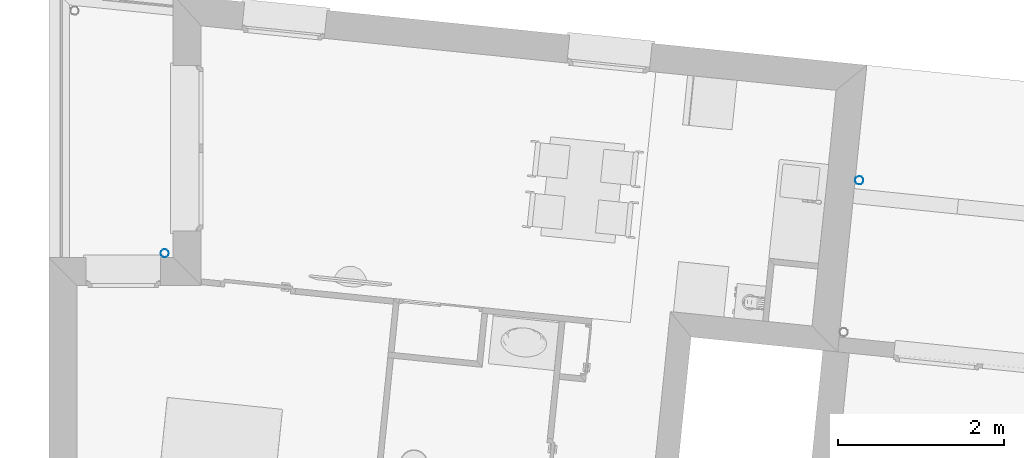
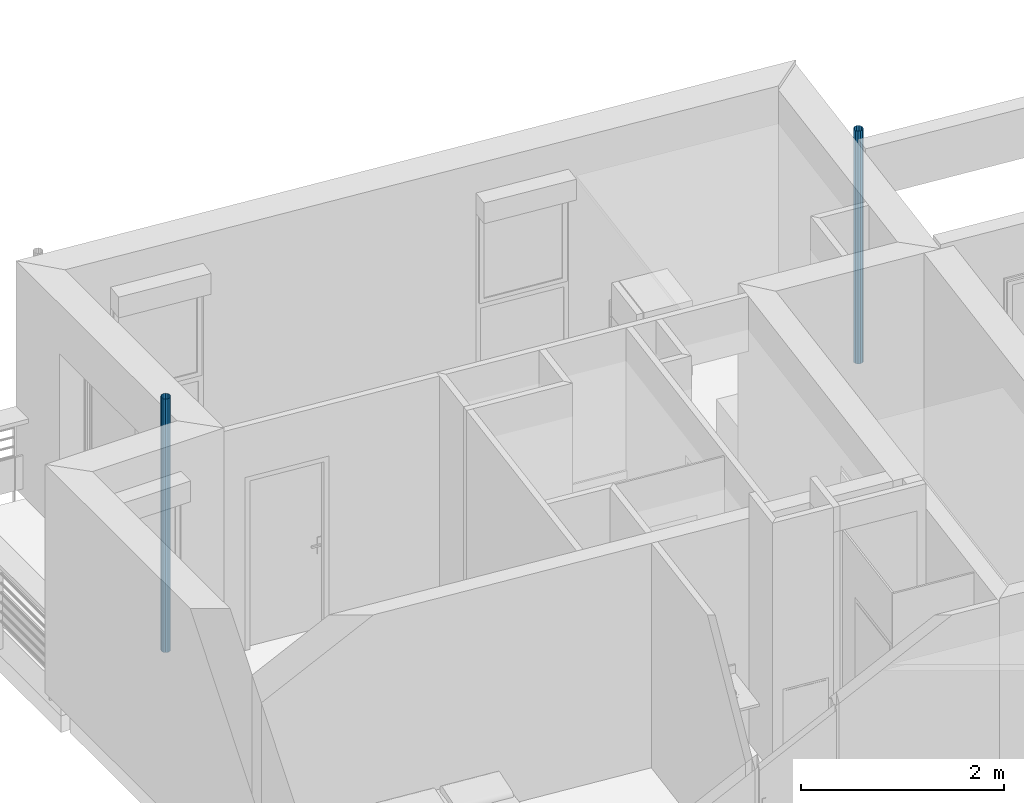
# One storey, part 96 of 171: 2 discrete accessories.
"""IFC2X3 building model written with IfcOpenShell, lengths in millimetres."""

from ifc_helpers import new_model, entity, si_unit, converted_unit, derived_unit, money_unit, direction, frame, origin_with_axes, place, context, subcontext, project, spatial, open_shell, surface_model, source, transform, mapped, type_object, element, save


model = new_model("IFC2X3")

# Units and contexts
model_context = context("Model", 3, precision=0.01, world=origin_with_axes(), true_north=direction((0.0, 1.0)))
body_context = subcontext(model_context, "Body", "Model", "MODEL_VIEW")
ifc_project = project(units=[si_unit("LENGTHUNIT", "METRE", prefix="MILLI"), si_unit("AREAUNIT", "SQUARE_METRE"), si_unit("VOLUMEUNIT", "CUBIC_METRE"), converted_unit("PLANEANGLEUNIT", "DEGREE", entity("IfcPlaneAngleMeasure", 0.0174532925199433), si_unit("PLANEANGLEUNIT", "RADIAN"), dimensions=[0, 0, 0, 0, 0, 0, 0]), money_unit("USD"), converted_unit("TIMEUNIT", "Year", entity("IfcTimeMeasure", 31557600.0), si_unit("TIMEUNIT", "SECOND"), dimensions=[0, 0, 1, 0, 0, 0, 0]), si_unit("MASSUNIT", "GRAM", prefix="KILO"), si_unit("THERMODYNAMICTEMPERATUREUNIT", "DEGREE_CELSIUS"), si_unit("LUMINOUSINTENSITYUNIT", "LUMEN"), si_unit("ENERGYUNIT", "JOULE", prefix="MEGA"), derived_unit("THERMALCONDUCTANCEUNIT", [(si_unit("POWERUNIT", "WATT"), 1), (si_unit("LENGTHUNIT", "METRE"), -1), (si_unit("THERMODYNAMICTEMPERATUREUNIT", "KELVIN"), -1)]), derived_unit("SPECIFICHEATCAPACITYUNIT", [(si_unit("ENERGYUNIT", "JOULE"), 1), (si_unit("MASSUNIT", "GRAM", prefix="KILO"), -1), (si_unit("THERMODYNAMICTEMPERATUREUNIT", "KELVIN"), -1)]), derived_unit("MASSDENSITYUNIT", [(si_unit("MASSUNIT", "GRAM", prefix="KILO"), 1), (si_unit("VOLUMEUNIT", "CUBIC_METRE"), -1)])], contexts=[model_context])

# Site, building, storey
site_placement = place(None, origin_with_axes())
site = spatial("IfcSite", under=ifc_project, at=site_placement, Name="Site", CompositionType="ELEMENT")
building_placement = place(site_placement, origin_with_axes())
building = spatial("IfcBuilding", under=site, at=building_placement, Name="Bâtiment", CompositionType="ELEMENT")
storey_placement = place(building_placement, frame((0.0, 0.0, 3000.0), z_axis=(0.0, 0.0, 1.0), x_axis=(1.0, 0.0, 0.0)))
storey = spatial("IfcBuildingStorey", under=building, at=storey_placement, Name="rdc", CompositionType="ELEMENT", Elevation=3000.0)

# Discrete accessories
discrete_accessory_type = type_object("IfcDiscreteAccessoryType", Name="Tuyau descente 27")
shared_shape_1 = source(origin_with_axes(), body_context, "Body", "SurfaceModel", [
    surface_model("IfcShellBasedSurfaceModel", [(-50.0, 0.0, 3050.0), (-50.0, 0.0, 0.0), (-43.30127018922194, -25.0, 0.0), (-43.30127018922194, -25.0, 3050.0), (-43.30127018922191, 25.00000000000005, 3050.0), (-43.30127018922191, 25.00000000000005, 0.0), (-25.00000000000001, -43.30127018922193, 0.0), (-25.00000000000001, -43.30127018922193, 3050.0), (-24.99999999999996, 43.30127018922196, 3050.0), (-24.99999999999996, 43.30127018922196, 0.0), (0.0, -50.0, 0.0), (0.0, -50.0, 3050.0), (0.0, 50.0, 3050.0), (0.0, 50.0, 0.0), (24.99999999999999, -43.30127018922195, 0.0), (24.99999999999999, -43.30127018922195, 3050.0), (25.00000000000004, 43.30127018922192, 3050.0), (25.00000000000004, 43.30127018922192, 0.0), (43.30127018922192, -25.00000000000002, 0.0), (43.30127018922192, -25.00000000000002, 3050.0), (43.30127018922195, 24.99999999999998, 3050.0), (43.30127018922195, 24.99999999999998, 0.0), (50.0, 0.0, 0.0), (50.0, 0.0, 3050.0)], [open_shell([[[0, 1, 2, 3]], [[4, 5, 1, 0]], [[3, 2, 6, 7]], [[8, 9, 5, 4]], [[7, 6, 10, 11]], [[12, 13, 9, 8]], [[11, 10, 14, 15]], [[16, 17, 13, 12]], [[15, 14, 18, 19]], [[20, 21, 17, 16]], [[19, 18, 22, 23]], [[23, 22, 21, 20]]])]),
])
discrete_accessory_1_placement = place(storey_placement, frame((2218034.158908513, -607117.3879007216, 0.0), z_axis=(0.0, 0.0, 1.0), x_axis=(-1.0, 0.0, 0.0)))
element("IfcDiscreteAccessory", 1, at=discrete_accessory_1_placement, inside=storey, type_object=discrete_accessory_type, Name="Obj.-318", context=body_context, shape_type="MappedRepresentation", body=[
    mapped(shared_shape_1, transform((0.0, 0.0, 0.0))),
])
shared_shape_2 = source(origin_with_axes(), body_context, "Body", "SurfaceModel", [
    surface_model("IfcShellBasedSurfaceModel", [(-50.0, 0.0, 2800.0), (-50.0, 0.0, 0.0), (-43.30127018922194, -25.0, 0.0), (-43.30127018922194, -25.0, 2800.0), (-43.30127018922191, 25.00000000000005, 2800.0), (-43.30127018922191, 25.00000000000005, 0.0), (-25.00000000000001, -43.30127018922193, 0.0), (-25.00000000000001, -43.30127018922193, 2800.0), (-24.99999999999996, 43.30127018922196, 2800.0), (-24.99999999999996, 43.30127018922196, 0.0), (0.0, -50.0, 0.0), (0.0, -50.0, 2800.0), (0.0, 50.0, 2800.0), (0.0, 50.0, 0.0), (24.99999999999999, -43.30127018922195, 0.0), (24.99999999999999, -43.30127018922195, 2800.0), (25.00000000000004, 43.30127018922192, 2800.0), (25.00000000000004, 43.30127018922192, 0.0), (43.30127018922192, -25.00000000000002, 0.0), (43.30127018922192, -25.00000000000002, 2800.0), (43.30127018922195, 24.99999999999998, 2800.0), (43.30127018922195, 24.99999999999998, 0.0), (50.0, 0.0, 0.0), (50.0, 0.0, 2800.0)], [open_shell([[[0, 1, 2, 3]], [[4, 5, 1, 0]], [[3, 2, 6, 7]], [[8, 9, 5, 4]], [[7, 6, 10, 11]], [[12, 13, 9, 8]], [[11, 10, 14, 15]], [[16, 17, 13, 12]], [[15, 14, 18, 19]], [[20, 21, 17, 16]], [[19, 18, 22, 23]], [[23, 22, 21, 20]]])]),
])
discrete_accessory_2_placement = place(storey_placement, frame((2226421.612192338, -606237.1895906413, 0.0), z_axis=(0.0, 0.0, 1.0), x_axis=(-0.9948759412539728, 0.1011032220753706, 0.0)))
element("IfcDiscreteAccessory", 2, at=discrete_accessory_2_placement, inside=storey, type_object=discrete_accessory_type, Name="Obj.-318", context=body_context, shape_type="MappedRepresentation", body=[
    mapped(shared_shape_2, transform((0.0, 0.0, 0.0))),
])

save(model, "model.ifc")
